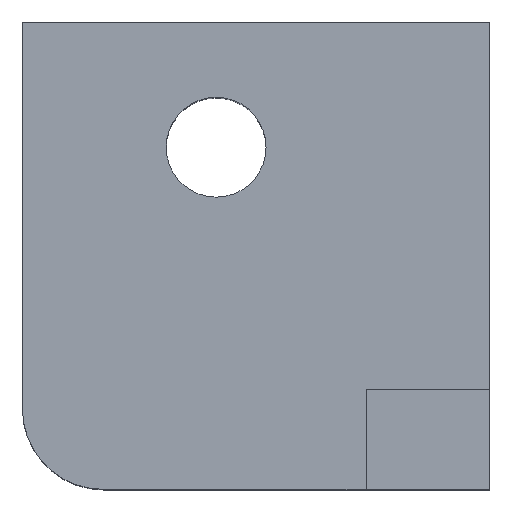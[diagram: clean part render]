
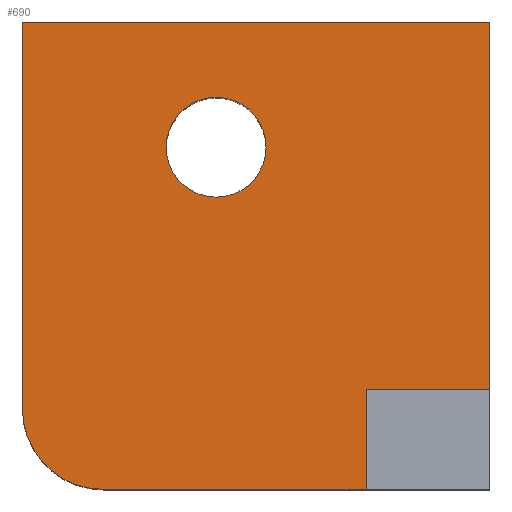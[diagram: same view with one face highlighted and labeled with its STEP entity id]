
A CAD part, top view. The second image highlights one B-rep face of the part: STEP entity #690.
In plain terms, the highlighted planar face has unit normal (0, 0, 1).
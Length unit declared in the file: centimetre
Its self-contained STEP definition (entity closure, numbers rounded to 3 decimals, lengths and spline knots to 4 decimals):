
#10 = VERTEX_POINT ( 'NONE', #846 ) ;
#26 = VERTEX_POINT ( 'NONE', #57 ) ;
#39 = VECTOR ( 'NONE', #777, 100. ) ;
#48 = LINE ( 'NONE', #839, #682 ) ;
#57 = CARTESIAN_POINT ( 'NONE',  ( 735.4523, 0., 1000. ) ) ;
#80 = DIRECTION ( 'NONE',  ( 1., 0., 0. ) ) ;
#82 = VERTEX_POINT ( 'NONE', #83 ) ;
#83 = CARTESIAN_POINT ( 'NONE',  ( 1000., 1000., 1000. ) ) ;
#84 = EDGE_CURVE ( 'NONE', #478, #259, #821, .T. ) ;
#109 = CARTESIAN_POINT ( 'NONE',  ( 0., 0., 1000. ) ) ;
#132 = CARTESIAN_POINT ( 'NONE',  ( 1000., 214.6051, 1000. ) ) ;
#135 = VERTEX_POINT ( 'NONE', #215 ) ;
#137 = DIRECTION ( 'NONE',  ( -1., 0., 0. ) ) ;
#146 = CARTESIAN_POINT ( 'NONE',  ( 0., 1000., 1000. ) ) ;
#150 = DIRECTION ( 'NONE',  ( -1., 0., 0. ) ) ;
#171 = AXIS2_PLACEMENT_3D ( 'NONE', #471, #204, #398 ) ;
#190 = PLANE ( 'NONE',  #588 ) ;
#200 = ORIENTED_EDGE ( 'NONE', *, *, #652, .T. ) ;
#204 = DIRECTION ( 'NONE',  ( 0., 0., 1. ) ) ;
#205 = ORIENTED_EDGE ( 'NONE', *, *, #644, .F. ) ;
#208 = CARTESIAN_POINT ( 'NONE',  ( 0., 0., 1000. ) ) ;
#215 = CARTESIAN_POINT ( 'NONE',  ( 0., 173.4583, 1000. ) ) ;
#217 = VECTOR ( 'NONE', #410, 100. ) ;
#249 = CARTESIAN_POINT ( 'NONE',  ( 414.7099, 732.1035, 1000. ) ) ;
#252 = DIRECTION ( 'NONE',  ( 0., 1., 0. ) ) ;
#253 = ORIENTED_EDGE ( 'NONE', *, *, #639, .F. ) ;
#254 = EDGE_CURVE ( 'NONE', #738, #82, #593, .T. ) ;
#259 = VERTEX_POINT ( 'NONE', #530 ) ;
#262 = VECTOR ( 'NONE', #292, 100. ) ;
#274 = AXIS2_PLACEMENT_3D ( 'NONE', #249, #527, #137 ) ;
#292 = DIRECTION ( 'NONE',  ( 0., -1., 0. ) ) ;
#300 = EDGE_CURVE ( 'NONE', #848, #135, #754, .T. ) ;
#303 = EDGE_LOOP ( 'NONE', ( #668, #389 ) ) ;
#333 = ORIENTED_EDGE ( 'NONE', *, *, #254, .T. ) ;
#338 = EDGE_LOOP ( 'NONE', ( #253, #205, #333, #655, #485, #200, #552 ) ) ;
#340 = FACE_OUTER_BOUND ( 'NONE', #338, .T. ) ;
#352 = LINE ( 'NONE', #500, #217 ) ;
#359 = VECTOR ( 'NONE', #252, 100. ) ;
#373 = CARTESIAN_POINT ( 'NONE',  ( 173.4583, 0., 1000. ) ) ;
#375 = LINE ( 'NONE', #109, #39 ) ;
#389 = ORIENTED_EDGE ( 'NONE', *, *, #84, .T. ) ;
#398 = DIRECTION ( 'NONE',  ( 1., 0., 0. ) ) ;
#410 = DIRECTION ( 'NONE',  ( -1., 0., 0. ) ) ;
#416 = EDGE_CURVE ( 'NONE', #594, #26, #375, .T. ) ;
#418 = VECTOR ( 'NONE', #630, 100. ) ;
#426 = CARTESIAN_POINT ( 'NONE',  ( 0., 1000., 1000. ) ) ;
#453 = CARTESIAN_POINT ( 'NONE',  ( 521.5149, 732.1035, 1000. ) ) ;
#470 = AXIS2_PLACEMENT_3D ( 'NONE', #546, #607, #150 ) ;
#471 = CARTESIAN_POINT ( 'NONE',  ( 173.4583, 173.4583, 1000. ) ) ;
#478 = VERTEX_POINT ( 'NONE', #453 ) ;
#481 = CIRCLE ( 'NONE', #171, 173.4583 ) ;
#485 = ORIENTED_EDGE ( 'NONE', *, *, #300, .T. ) ;
#500 = CARTESIAN_POINT ( 'NONE',  ( 0., 1000., 1000. ) ) ;
#527 = DIRECTION ( 'NONE',  ( 0., 0., -1. ) ) ;
#530 = CARTESIAN_POINT ( 'NONE',  ( 307.9049, 732.1035, 1000. ) ) ;
#546 = CARTESIAN_POINT ( 'NONE',  ( 414.7099, 732.1035, 1000. ) ) ;
#552 = ORIENTED_EDGE ( 'NONE', *, *, #416, .T. ) ;
#570 = CARTESIAN_POINT ( 'NONE',  ( 735.4523, 0., 1000. ) ) ;
#588 = AXIS2_PLACEMENT_3D ( 'NONE', #208, #665, #80 ) ;
#593 = LINE ( 'NONE', #852, #359 ) ;
#594 = VERTEX_POINT ( 'NONE', #373 ) ;
#607 = DIRECTION ( 'NONE',  ( 0., 0., -1. ) ) ;
#630 = DIRECTION ( 'NONE',  ( 0., -1., 0. ) ) ;
#634 = CIRCLE ( 'NONE', #274, 106.805 ) ;
#639 = EDGE_CURVE ( 'NONE', #10, #26, #773, .T. ) ;
#644 = EDGE_CURVE ( 'NONE', #738, #10, #48, .T. ) ;
#652 = EDGE_CURVE ( 'NONE', #135, #594, #481, .T. ) ;
#655 = ORIENTED_EDGE ( 'NONE', *, *, #808, .T. ) ;
#665 = DIRECTION ( 'NONE',  ( 0., 0., 1. ) ) ;
#668 = ORIENTED_EDGE ( 'NONE', *, *, #713, .T. ) ;
#682 = VECTOR ( 'NONE', #701, 100. ) ;
#690 = ADVANCED_FACE ( 'NONE', ( #809, #340 ), #190, .T. ) ;
#701 = DIRECTION ( 'NONE',  ( -1., 0., 0. ) ) ;
#713 = EDGE_CURVE ( 'NONE', #259, #478, #634, .T. ) ;
#738 = VERTEX_POINT ( 'NONE', #132 ) ;
#754 = LINE ( 'NONE', #426, #262 ) ;
#773 = LINE ( 'NONE', #570, #418 ) ;
#777 = DIRECTION ( 'NONE',  ( 1., 0., 0. ) ) ;
#808 = EDGE_CURVE ( 'NONE', #82, #848, #352, .T. ) ;
#809 = FACE_BOUND ( 'NONE', #303, .T. ) ;
#821 = CIRCLE ( 'NONE', #470, 106.805 ) ;
#839 = CARTESIAN_POINT ( 'NONE',  ( 735.4523, 214.6051, 1000. ) ) ;
#846 = CARTESIAN_POINT ( 'NONE',  ( 735.4523, 214.6051, 1000. ) ) ;
#848 = VERTEX_POINT ( 'NONE', #146 ) ;
#852 = CARTESIAN_POINT ( 'NONE',  ( 1000., 1000., 1000. ) ) ;
